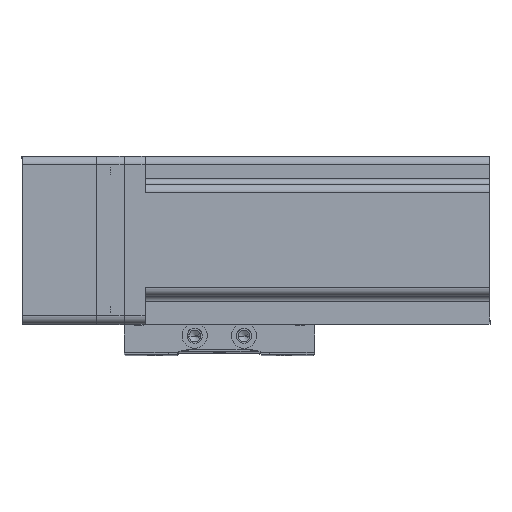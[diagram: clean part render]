
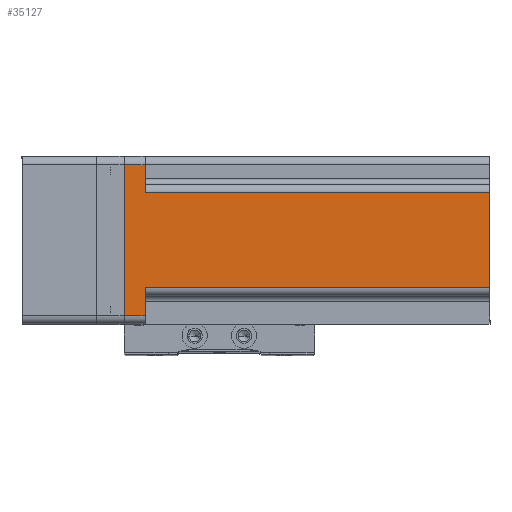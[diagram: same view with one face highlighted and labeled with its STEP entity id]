
A CAD part, top view. The second image highlights one B-rep face of the part: STEP entity #35127.
In plain terms, the highlighted planar face has unit normal (0, 0, 1) as drawn and (0, 1, 0) by its records, which use the part's own axes.
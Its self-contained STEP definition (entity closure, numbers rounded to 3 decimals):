
#359 = CARTESIAN_POINT ( 'NONE',  ( -27., 30., 130.7 ) ) ;
#1181 = EDGE_CURVE ( 'NONE', #26341, #23039, #18045, .T. ) ;
#1885 = LINE ( 'NONE', #5318, #18181 ) ;
#1989 = VECTOR ( 'NONE', #34841, 1000. ) ;
#2573 = CARTESIAN_POINT ( 'NONE',  ( 30., 30., 130.7 ) ) ;
#4056 = ORIENTED_EDGE ( 'NONE', *, *, #35695, .T. ) ;
#4516 = CARTESIAN_POINT ( 'NONE',  ( 30., 30., 130.7 ) ) ;
#4985 = CARTESIAN_POINT ( 'NONE',  ( -17., 30., 130.7 ) ) ;
#5318 = CARTESIAN_POINT ( 'NONE',  ( 17., 30., 130.7 ) ) ;
#5335 = CARTESIAN_POINT ( 'NONE',  ( -17., 30., 130.7 ) ) ;
#5845 = DIRECTION ( 'NONE',  ( 1., 0., 0. ) ) ;
#8160 = DIRECTION ( 'NONE',  ( 0., 0., -1. ) ) ;
#8717 = CARTESIAN_POINT ( 'NONE',  ( 27., 30., 0. ) ) ;
#8816 = CARTESIAN_POINT ( 'NONE',  ( 27., 30., 130.7 ) ) ;
#9280 = EDGE_CURVE ( 'NONE', #34792, #23039, #25554, .T. ) ;
#9373 = VERTEX_POINT ( 'NONE', #24720 ) ;
#10111 = CARTESIAN_POINT ( 'NONE',  ( -17., 30., 7.5 ) ) ;
#10947 = CARTESIAN_POINT ( 'NONE',  ( 17., 30., 130.7 ) ) ;
#11325 = EDGE_CURVE ( 'NONE', #34792, #9373, #1885, .T. ) ;
#12830 = DIRECTION ( 'NONE',  ( -1., 0., 0. ) ) ;
#14736 = VERTEX_POINT ( 'NONE', #8717 ) ;
#15408 = VECTOR ( 'NONE', #17503, 1000. ) ;
#16596 = ORIENTED_EDGE ( 'NONE', *, *, #9280, .F. ) ;
#17287 = VECTOR ( 'NONE', #25724, 1000. ) ;
#17306 = CARTESIAN_POINT ( 'NONE',  ( -27., 30., 7.5 ) ) ;
#17503 = DIRECTION ( 'NONE',  ( 1., 0., 0. ) ) ;
#17645 = CARTESIAN_POINT ( 'NONE',  ( -20., 30., 7.5 ) ) ;
#18045 = LINE ( 'NONE', #4985, #26755 ) ;
#18181 = VECTOR ( 'NONE', #8160, 1000. ) ;
#18752 = EDGE_CURVE ( 'NONE', #37899, #9373, #19581, .T. ) ;
#19581 = LINE ( 'NONE', #29073, #35837 ) ;
#21835 = EDGE_CURVE ( 'NONE', #37899, #14736, #37627, .T. ) ;
#22608 = ORIENTED_EDGE ( 'NONE', *, *, #40379, .T. ) ;
#22702 = EDGE_CURVE ( 'NONE', #33394, #31816, #37460, .T. ) ;
#23039 = VERTEX_POINT ( 'NONE', #5335 ) ;
#24041 = DIRECTION ( 'NONE',  ( -1., 0., 0. ) ) ;
#24486 = DIRECTION ( 'NONE',  ( 0., 0., 1. ) ) ;
#24720 = CARTESIAN_POINT ( 'NONE',  ( 17., 30., 7.5 ) ) ;
#25343 = DIRECTION ( 'NONE',  ( 0., -1., 0. ) ) ;
#25554 = LINE ( 'NONE', #4516, #33162 ) ;
#25720 = CARTESIAN_POINT ( 'NONE',  ( 27., 30., 7.5 ) ) ;
#25724 = DIRECTION ( 'NONE',  ( -1., 0., 0. ) ) ;
#25981 = LINE ( 'NONE', #38642, #17287 ) ;
#26341 = VERTEX_POINT ( 'NONE', #10111 ) ;
#26755 = VECTOR ( 'NONE', #24486, 1000. ) ;
#28819 = VECTOR ( 'NONE', #36211, 1000. ) ;
#29073 = CARTESIAN_POINT ( 'NONE',  ( 20., 30., 7.5 ) ) ;
#31816 = VERTEX_POINT ( 'NONE', #17306 ) ;
#31885 = ORIENTED_EDGE ( 'NONE', *, *, #22702, .T. ) ;
#32795 = EDGE_LOOP ( 'NONE', ( #22608, #33858, #16596, #39476, #40609, #40668, #4056, #31885 ) ) ;
#33162 = VECTOR ( 'NONE', #24041, 1000. ) ;
#33394 = VERTEX_POINT ( 'NONE', #38985 ) ;
#33858 = ORIENTED_EDGE ( 'NONE', *, *, #1181, .T. ) ;
#34792 = VERTEX_POINT ( 'NONE', #10947 ) ;
#34841 = DIRECTION ( 'NONE',  ( 0., 0., -1. ) ) ;
#35127 = ADVANCED_FACE ( 'NONE', ( #36754 ), #42066, .F. ) ;
#35695 = EDGE_CURVE ( 'NONE', #14736, #33394, #25981, .T. ) ;
#35837 = VECTOR ( 'NONE', #12830, 1000. ) ;
#36211 = DIRECTION ( 'NONE',  ( 0., 0., 1. ) ) ;
#36754 = FACE_OUTER_BOUND ( 'NONE', #32795, .T. ) ;
#37460 = LINE ( 'NONE', #359, #28819 ) ;
#37627 = LINE ( 'NONE', #8816, #1989 ) ;
#37899 = VERTEX_POINT ( 'NONE', #25720 ) ;
#37991 = AXIS2_PLACEMENT_3D ( 'NONE', #2573, #25343, #5845 ) ;
#38642 = CARTESIAN_POINT ( 'NONE',  ( 30., 30., 0. ) ) ;
#38985 = CARTESIAN_POINT ( 'NONE',  ( -27., 30., 0. ) ) ;
#39476 = ORIENTED_EDGE ( 'NONE', *, *, #11325, .T. ) ;
#40379 = EDGE_CURVE ( 'NONE', #31816, #26341, #40389, .T. ) ;
#40389 = LINE ( 'NONE', #17645, #15408 ) ;
#40609 = ORIENTED_EDGE ( 'NONE', *, *, #18752, .F. ) ;
#40668 = ORIENTED_EDGE ( 'NONE', *, *, #21835, .T. ) ;
#42066 = PLANE ( 'NONE',  #37991 ) ;
